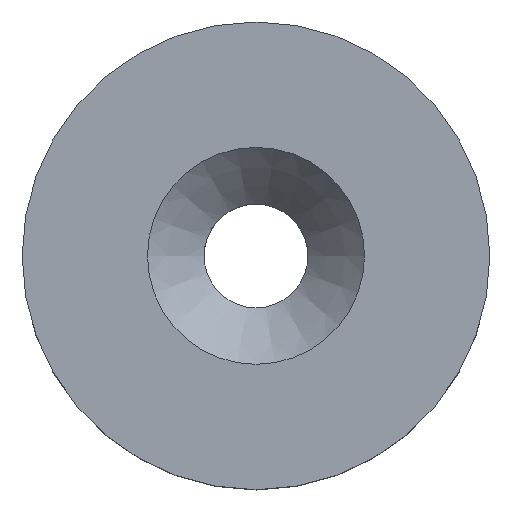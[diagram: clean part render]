
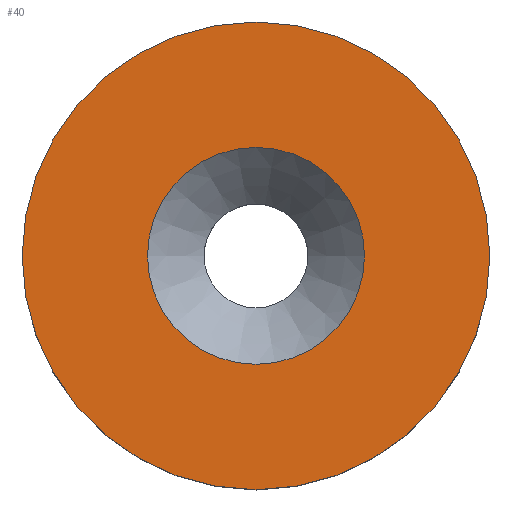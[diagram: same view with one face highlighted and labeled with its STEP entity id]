
A CAD part, top view. The second image highlights one B-rep face of the part: STEP entity #40.
In plain terms, the highlighted planar face has unit normal (0, 0, 1).
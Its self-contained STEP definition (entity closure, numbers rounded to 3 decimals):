
#40=ADVANCED_FACE('',(#51,#52),#47,.T.);
#47=PLANE('',#118);
#51=FACE_BOUND('',#65,.T.);
#52=FACE_BOUND('',#66,.T.);
#65=EDGE_LOOP('',(#79));
#66=EDGE_LOOP('',(#80));
#79=ORIENTED_EDGE('',*,*,#100,.T.);
#80=ORIENTED_EDGE('',*,*,#101,.F.);
#93=VERTEX_POINT('',#164);
#94=VERTEX_POINT('',#166);
#100=EDGE_CURVE('',#93,#93,#107,.T.);
#101=EDGE_CURVE('',#94,#94,#108,.T.);
#107=CIRCLE('',#116,5.334);
#108=CIRCLE('',#117,11.5);
#116=AXIS2_PLACEMENT_3D('',#163,#135,#136);
#117=AXIS2_PLACEMENT_3D('',#165,#137,#138);
#118=AXIS2_PLACEMENT_3D('',#167,#139,#140);
#135=DIRECTION('',(0.,0.,-1.));
#136=DIRECTION('',(-1.,0.,0.));
#137=DIRECTION('',(0.,0.,-1.));
#138=DIRECTION('',(-1.,0.,0.));
#139=DIRECTION('',(0.,0.,1.));
#140=DIRECTION('',(1.,0.,0.));
#163=CARTESIAN_POINT('',(0.,0.,7.7));
#164=CARTESIAN_POINT('',(-5.334,0.,7.7));
#165=CARTESIAN_POINT('',(0.,0.,7.7));
#166=CARTESIAN_POINT('',(-11.5,0.,7.7));
#167=CARTESIAN_POINT('',(11.5,0.,7.7));
